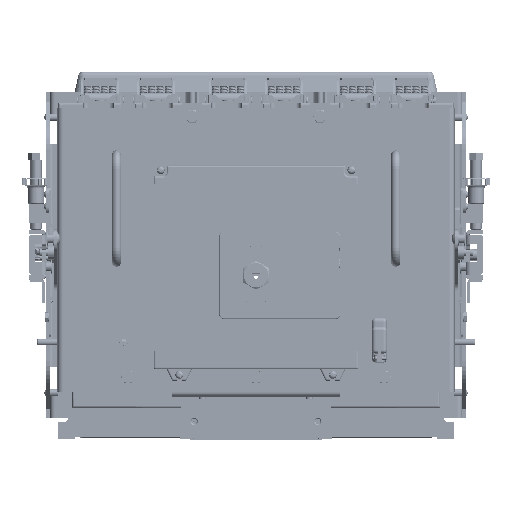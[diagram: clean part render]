
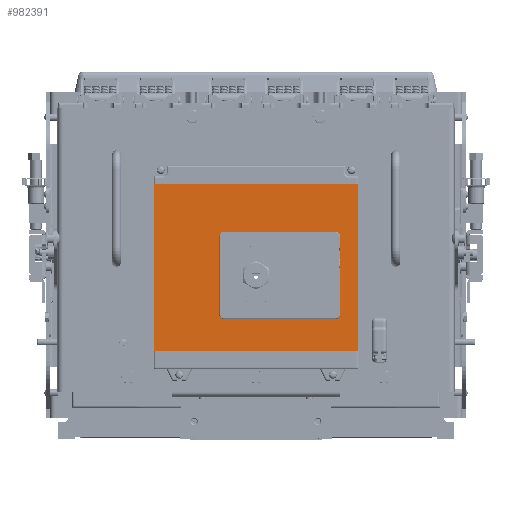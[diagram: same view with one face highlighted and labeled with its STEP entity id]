
A CAD part, top view. The second image highlights one B-rep face of the part: STEP entity #982391.
In plain terms, the highlighted planar face has unit normal (0, 0, 1).
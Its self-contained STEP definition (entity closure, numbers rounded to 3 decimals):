
#978561 = EDGE_CURVE ( 'NONE', #978910, #979022, #1040119, .T. ) ;
#978592 = VERTEX_POINT ( 'NONE', #1039988 ) ;
#978721 = VERTEX_POINT ( 'NONE', #1040430 ) ;
#978750 = EDGE_CURVE ( 'NONE', #978592, #978721, #1040761, .T. ) ;
#978910 = VERTEX_POINT ( 'NONE', #1041259 ) ;
#978931 = EDGE_CURVE ( 'NONE', #978910, #978721, #1041204, .T. ) ;
#979022 = VERTEX_POINT ( 'NONE', #1041390 ) ;
#979191 = VERTEX_POINT ( 'NONE', #1041710 ) ;
#979241 = EDGE_CURVE ( 'NONE', #979253, #979191, #1042015, .T. ) ;
#979253 = VERTEX_POINT ( 'NONE', #1042123 ) ;
#979365 = EDGE_CURVE ( 'NONE', #979253, #979022, #1042539, .T. ) ;
#980076 = VERTEX_POINT ( 'NONE', #1045109 ) ;
#980306 = EDGE_CURVE ( 'NONE', #978592, #980076, #1045757, .T. ) ;
#980577 = EDGE_CURVE ( 'NONE', #980596, #980076, #1046711, .T. ) ;
#980596 = VERTEX_POINT ( 'NONE', #1046649 ) ;
#981735 = EDGE_CURVE ( 'NONE', #981741, #981745, #1051501, .T. ) ;
#981741 = VERTEX_POINT ( 'NONE', #1051441 ) ;
#981745 = VERTEX_POINT ( 'NONE', #1051435 ) ;
#981961 = VERTEX_POINT ( 'NONE', #1052269 ) ;
#981972 = ORIENTED_EDGE ( 'NONE', *, *, #982004, .F. ) ;
#982004 = EDGE_CURVE ( 'NONE', #981745, #982448, #1052542, .T. ) ;
#982022 = ORIENTED_EDGE ( 'NONE', *, *, #981735, .F. ) ;
#982037 = ORIENTED_EDGE ( 'NONE', *, *, #982060, .F. ) ;
#982060 = EDGE_CURVE ( 'NONE', #981961, #981741, #1052757, .T. ) ;
#982082 = EDGE_LOOP ( 'NONE', ( #982620, #982635, #982649, #982670, #982686, #982702, #982214, #982271 ) ) ;
#982214 = ORIENTED_EDGE ( 'NONE', *, *, #982245, .F. ) ;
#982245 = EDGE_CURVE ( 'NONE', #980596, #979191, #1053402, .T. ) ;
#982271 = ORIENTED_EDGE ( 'NONE', *, *, #980577, .T. ) ;
#982391 = ADVANCED_FACE ( 'NONE', ( #1054515, #1054511 ), #1054410, .T. ) ;
#982408 = EDGE_LOOP ( 'NONE', ( #982419, #981972, #982022, #982037 ) ) ;
#982419 = ORIENTED_EDGE ( 'NONE', *, *, #982432, .F. ) ;
#982432 = EDGE_CURVE ( 'NONE', #982448, #981961, #1054687, .T. ) ;
#982448 = VERTEX_POINT ( 'NONE', #1054523 ) ;
#982620 = ORIENTED_EDGE ( 'NONE', *, *, #980306, .F. ) ;
#982635 = ORIENTED_EDGE ( 'NONE', *, *, #978750, .T. ) ;
#982649 = ORIENTED_EDGE ( 'NONE', *, *, #978931, .F. ) ;
#982670 = ORIENTED_EDGE ( 'NONE', *, *, #978561, .T. ) ;
#982686 = ORIENTED_EDGE ( 'NONE', *, *, #979365, .F. ) ;
#982702 = ORIENTED_EDGE ( 'NONE', *, *, #979241, .T. ) ;
#1039988 = CARTESIAN_POINT ( 'NONE',  ( 51.921, 297.363, 371.783 ) ) ;
#1040105 = DIRECTION ( 'NONE',  ( 1., 0., 0. ) ) ;
#1040111 = DIRECTION ( 'NONE',  ( 0., 0., -1. ) ) ;
#1040116 = CARTESIAN_POINT ( 'NONE',  ( 51.921, 386.363, 371.783 ) ) ;
#1040117 = AXIS2_PLACEMENT_3D ( 'NONE', #1040116, #1040111, #1040105 ) ;
#1040119 = CIRCLE ( 'NONE', #1040117, 5. ) ;
#1040430 = CARTESIAN_POINT ( 'NONE',  ( 46.921, 302.363, 371.783 ) ) ;
#1040742 = DIRECTION ( 'NONE',  ( 1., 0., 0. ) ) ;
#1040749 = DIRECTION ( 'NONE',  ( 0., 0., -1. ) ) ;
#1040753 = CARTESIAN_POINT ( 'NONE',  ( 51.921, 302.363, 371.783 ) ) ;
#1040757 = AXIS2_PLACEMENT_3D ( 'NONE', #1040753, #1040749, #1040742 ) ;
#1040761 = CIRCLE ( 'NONE', #1040757, 5. ) ;
#1041195 = DIRECTION ( 'NONE',  ( 0., -1., 0. ) ) ;
#1041197 = VECTOR ( 'NONE', #1041195, 1000. ) ;
#1041201 = CARTESIAN_POINT ( 'NONE',  ( 46.921, 297.363, 371.783 ) ) ;
#1041204 = LINE ( 'NONE', #1041201, #1041197 ) ;
#1041259 = CARTESIAN_POINT ( 'NONE',  ( 46.921, 386.363, 371.783 ) ) ;
#1041390 = CARTESIAN_POINT ( 'NONE',  ( 51.921, 391.363, 371.783 ) ) ;
#1041710 = CARTESIAN_POINT ( 'NONE',  ( 176.921, 386.363, 371.783 ) ) ;
#1042003 = DIRECTION ( 'NONE',  ( 1., 0., 0. ) ) ;
#1042005 = DIRECTION ( 'NONE',  ( 0., 0., -1. ) ) ;
#1042008 = CARTESIAN_POINT ( 'NONE',  ( 171.921, 386.363, 371.783 ) ) ;
#1042012 = AXIS2_PLACEMENT_3D ( 'NONE', #1042008, #1042005, #1042003 ) ;
#1042015 = CIRCLE ( 'NONE', #1042012, 5. ) ;
#1042123 = CARTESIAN_POINT ( 'NONE',  ( 171.921, 391.363, 371.783 ) ) ;
#1042524 = DIRECTION ( 'NONE',  ( -1., 0., 0. ) ) ;
#1042530 = VECTOR ( 'NONE', #1042524, 1000. ) ;
#1042536 = CARTESIAN_POINT ( 'NONE',  ( 46.921, 391.363, 371.783 ) ) ;
#1042539 = LINE ( 'NONE', #1042536, #1042530 ) ;
#1045109 = CARTESIAN_POINT ( 'NONE',  ( 171.921, 297.363, 371.783 ) ) ;
#1045744 = DIRECTION ( 'NONE',  ( 1., 0., 0. ) ) ;
#1045748 = VECTOR ( 'NONE', #1045744, 1000. ) ;
#1045752 = CARTESIAN_POINT ( 'NONE',  ( 46.921, 297.363, 371.783 ) ) ;
#1045757 = LINE ( 'NONE', #1045752, #1045748 ) ;
#1046649 = CARTESIAN_POINT ( 'NONE',  ( 176.921, 302.363, 371.783 ) ) ;
#1046698 = DIRECTION ( 'NONE',  ( 1., 0., 0. ) ) ;
#1046702 = DIRECTION ( 'NONE',  ( 0., 0., -1. ) ) ;
#1046705 = CARTESIAN_POINT ( 'NONE',  ( 171.921, 302.363, 371.783 ) ) ;
#1046708 = AXIS2_PLACEMENT_3D ( 'NONE', #1046705, #1046702, #1046698 ) ;
#1046711 = CIRCLE ( 'NONE', #1046708, 5. ) ;
#1051435 = CARTESIAN_POINT ( 'NONE',  ( -23.579, 263.363, 371.783 ) ) ;
#1051441 = CARTESIAN_POINT ( 'NONE',  ( 196.421, 263.363, 371.783 ) ) ;
#1051489 = DIRECTION ( 'NONE',  ( -1., 0., 0. ) ) ;
#1051491 = VECTOR ( 'NONE', #1051489, 1000. ) ;
#1051495 = CARTESIAN_POINT ( 'NONE',  ( -23.579, 263.363, 371.783 ) ) ;
#1051501 = LINE ( 'NONE', #1051495, #1051491 ) ;
#1052269 = CARTESIAN_POINT ( 'NONE',  ( 196.421, 442.363, 371.783 ) ) ;
#1052520 = DIRECTION ( 'NONE',  ( 0., 1., 0. ) ) ;
#1052524 = VECTOR ( 'NONE', #1052520, 1000. ) ;
#1052530 = CARTESIAN_POINT ( 'NONE',  ( -23.579, 243.363, 371.783 ) ) ;
#1052542 = LINE ( 'NONE', #1052530, #1052524 ) ;
#1052743 = DIRECTION ( 'NONE',  ( 0., -1., 0. ) ) ;
#1052747 = VECTOR ( 'NONE', #1052743, 1000. ) ;
#1052754 = CARTESIAN_POINT ( 'NONE',  ( 196.421, 243.363, 371.783 ) ) ;
#1052757 = LINE ( 'NONE', #1052754, #1052747 ) ;
#1053387 = VECTOR ( 'NONE', #1053815, 1000. ) ;
#1053395 = CARTESIAN_POINT ( 'NONE',  ( 176.921, 297.363, 371.783 ) ) ;
#1053402 = LINE ( 'NONE', #1053395, #1053387 ) ;
#1053815 = DIRECTION ( 'NONE',  ( 0., 1., 0. ) ) ;
#1054387 = DIRECTION ( 'NONE',  ( 1., 0., 0. ) ) ;
#1054393 = DIRECTION ( 'NONE',  ( 0., 0., 1. ) ) ;
#1054401 = CARTESIAN_POINT ( 'NONE',  ( 196.421, 450.863, 371.783 ) ) ;
#1054404 = AXIS2_PLACEMENT_3D ( 'NONE', #1054401, #1054393, #1054387 ) ;
#1054410 = PLANE ( 'NONE',  #1054404 ) ;
#1054511 = FACE_BOUND ( 'NONE', #982082, .T. ) ;
#1054515 = FACE_OUTER_BOUND ( 'NONE', #982408, .T. ) ;
#1054523 = CARTESIAN_POINT ( 'NONE',  ( -23.579, 442.363, 371.783 ) ) ;
#1054647 = DIRECTION ( 'NONE',  ( 1., 0., 0. ) ) ;
#1054651 = VECTOR ( 'NONE', #1054647, 1000. ) ;
#1054657 = CARTESIAN_POINT ( 'NONE',  ( -23.579, 442.363, 371.783 ) ) ;
#1054687 = LINE ( 'NONE', #1054657, #1054651 ) ;
